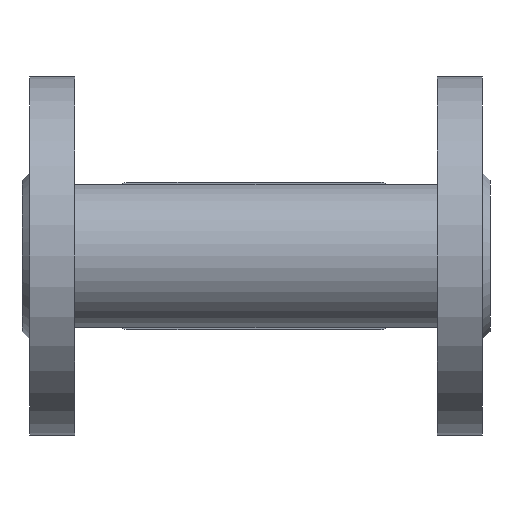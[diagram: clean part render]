
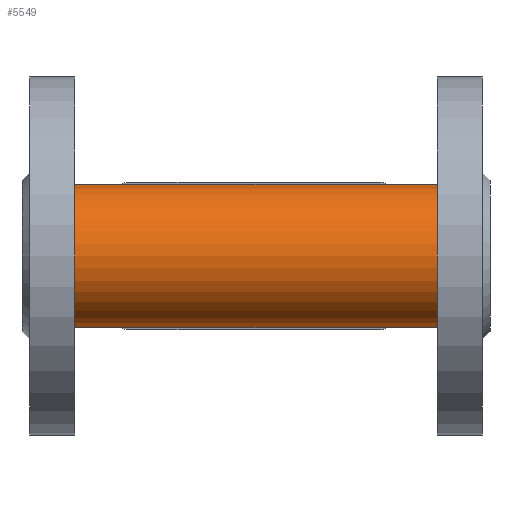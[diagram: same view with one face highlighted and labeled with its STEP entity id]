
A CAD part, front view. The second image highlights one B-rep face of the part: STEP entity #5549.
In plain terms, the highlighted cylindrical face has radius 19 mm (diameter 38 mm), a full revolution.
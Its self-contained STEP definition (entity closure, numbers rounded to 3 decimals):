
#355=ELLIPSE('',#29622,26.87,19.);
#356=ELLIPSE('',#29623,26.87,19.);
#357=ELLIPSE('',#29624,26.87,19.);
#358=ELLIPSE('',#29625,26.87,19.);
#3124=FACE_BOUND('',#9758,.T.);
#3125=FACE_BOUND('',#9759,.T.);
#3126=FACE_BOUND('',#9760,.T.);
#3515=CYLINDRICAL_SURFACE('',#29628,19.);
#4410=CIRCLE('',#29626,19.);
#4411=CIRCLE('',#29627,19.);
#5549=ADVANCED_FACE('',(#3124,#3125,#3126),#3515,.T.);
#9758=EDGE_LOOP('',(#13710,#13711,#13712,#13713,#13714,#13715));
#9759=EDGE_LOOP('',(#13716));
#9760=EDGE_LOOP('',(#13717));
#13710=ORIENTED_EDGE('',*,*,#21900,.T.);
#13711=ORIENTED_EDGE('',*,*,#21901,.T.);
#13712=ORIENTED_EDGE('',*,*,#21902,.T.);
#13713=ORIENTED_EDGE('',*,*,#21903,.T.);
#13714=ORIENTED_EDGE('',*,*,#21904,.T.);
#13715=ORIENTED_EDGE('',*,*,#21905,.T.);
#13716=ORIENTED_EDGE('',*,*,#21906,.F.);
#13717=ORIENTED_EDGE('',*,*,#21907,.F.);
#18969=VERTEX_POINT('',#45497);
#18970=VERTEX_POINT('',#45498);
#18971=VERTEX_POINT('',#45500);
#18972=VERTEX_POINT('',#45502);
#18973=VERTEX_POINT('',#45504);
#18974=VERTEX_POINT('',#45506);
#18975=VERTEX_POINT('',#45509);
#18976=VERTEX_POINT('',#45511);
#21900=EDGE_CURVE('',#18969,#18970,#355,.T.);
#21901=EDGE_CURVE('',#18970,#18971,#356,.T.);
#21902=EDGE_CURVE('',#18971,#18972,#24547,.T.);
#21903=EDGE_CURVE('',#18972,#18973,#357,.T.);
#21904=EDGE_CURVE('',#18973,#18974,#358,.T.);
#21905=EDGE_CURVE('',#18974,#18969,#24548,.T.);
#21906=EDGE_CURVE('',#18975,#18975,#4410,.T.);
#21907=EDGE_CURVE('',#18976,#18976,#4411,.T.);
#24547=LINE('',#45501,#26389);
#24548=LINE('',#45507,#26390);
#26389=VECTOR('',#34398,1.);
#26390=VECTOR('',#34403,1.);
#29622=AXIS2_PLACEMENT_3D('',#45496,#34394,#34395);
#29623=AXIS2_PLACEMENT_3D('',#45499,#34396,#34397);
#29624=AXIS2_PLACEMENT_3D('',#45503,#34399,#34400);
#29625=AXIS2_PLACEMENT_3D('',#45505,#34401,#34402);
#29626=AXIS2_PLACEMENT_3D('',#45508,#34404,#34405);
#29627=AXIS2_PLACEMENT_3D('',#45510,#34406,#34407);
#29628=AXIS2_PLACEMENT_3D('',#45512,#34408,#34409);
#34394=DIRECTION('',(-0.707,-0.707,0.));
#34395=DIRECTION('',(-0.707,0.707,0.));
#34396=DIRECTION('',(-0.707,-0.707,0.));
#34397=DIRECTION('',(-0.707,0.707,0.));
#34398=DIRECTION('',(1.,0.,0.));
#34399=DIRECTION('',(0.707,-0.707,0.));
#34400=DIRECTION('',(-0.707,-0.707,0.));
#34401=DIRECTION('',(0.707,-0.707,0.));
#34402=DIRECTION('',(-0.707,-0.707,0.));
#34403=DIRECTION('',(-1.,0.,0.));
#34404=DIRECTION('',(1.,0.,0.));
#34405=DIRECTION('',(0.,0.,1.));
#34406=DIRECTION('',(-1.,0.,0.));
#34407=DIRECTION('',(0.,0.,-1.));
#34408=DIRECTION('',(-1.,0.,0.));
#34409=DIRECTION('',(0.,0.,1.));
#45496=CARTESIAN_POINT('',(35.,-12.49,960.5));
#45497=CARTESIAN_POINT('',(20.,2.51,972.162));
#45498=CARTESIAN_POINT('',(16.,6.51,960.5));
#45499=CARTESIAN_POINT('',(35.,-12.49,960.5));
#45500=CARTESIAN_POINT('',(20.,2.51,948.838));
#45501=CARTESIAN_POINT('',(76.,2.51,948.838));
#45502=CARTESIAN_POINT('',(70.,2.51,948.838));
#45503=CARTESIAN_POINT('',(55.,-12.49,960.5));
#45504=CARTESIAN_POINT('',(74.,6.51,960.5));
#45505=CARTESIAN_POINT('',(55.,-12.49,960.5));
#45506=CARTESIAN_POINT('',(70.,2.51,972.162));
#45507=CARTESIAN_POINT('',(76.,2.51,972.162));
#45508=CARTESIAN_POINT('',(93.,-12.49,960.5));
#45509=CARTESIAN_POINT('',(93.,-12.49,979.5));
#45510=CARTESIAN_POINT('',(-3.,-12.49,960.5));
#45511=CARTESIAN_POINT('',(-3.,-12.49,941.5));
#45512=CARTESIAN_POINT('',(76.,-12.49,960.5));
